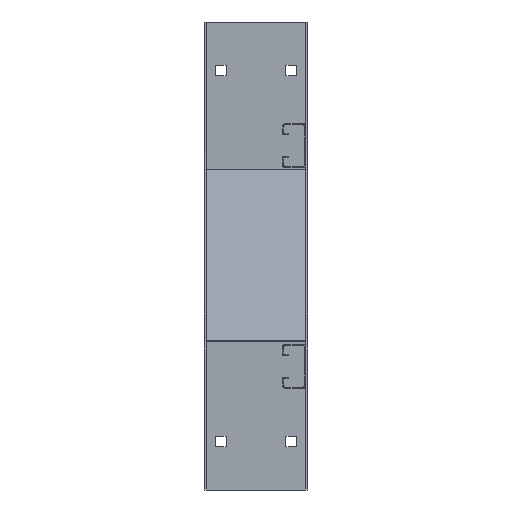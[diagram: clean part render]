
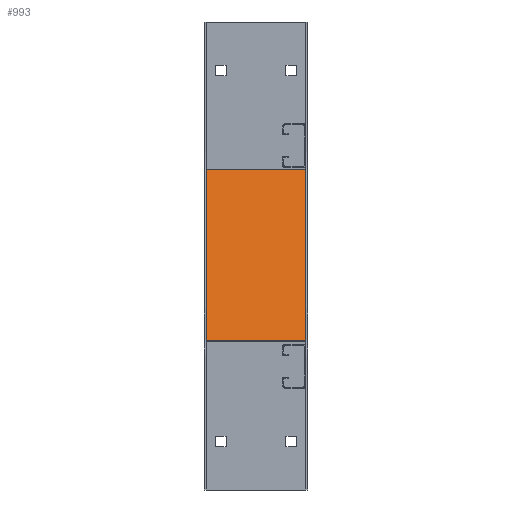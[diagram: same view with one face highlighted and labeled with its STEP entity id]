
A CAD part, left-side view. The second image highlights one B-rep face of the part: STEP entity #993.
In plain terms, the highlighted planar face has unit normal (-0.5, 0, 0.866).
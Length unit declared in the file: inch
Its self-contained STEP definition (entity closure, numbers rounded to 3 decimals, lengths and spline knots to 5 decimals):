
#101=DIRECTION('',(-0.866,0.,-0.5));
#102=VECTOR('',#101,13.85641);
#103=CARTESIAN_POINT('',(-0.075,4.11,-5.9567));
#104=LINE('',#103,#102);
#169=DIRECTION('',(-0.866,0.,-0.5));
#170=VECTOR('',#169,13.85641);
#171=CARTESIAN_POINT('',(-0.075,0.08,-5.9567));
#172=LINE('',#171,#170);
#173=DIRECTION('',(0.,1.,0.));
#174=VECTOR('',#173,4.03);
#175=CARTESIAN_POINT('',(-0.075,0.08,-5.9567));
#176=LINE('',#175,#174);
#181=DIRECTION('',(0.,1.,0.));
#182=VECTOR('',#181,4.03);
#183=CARTESIAN_POINT('',(-12.075,0.08,-12.8849));
#184=LINE('',#183,#182);
#609=CARTESIAN_POINT('',(-0.075,0.08,-5.9567));
#610=CARTESIAN_POINT('',(-0.075,4.11,-5.9567));
#611=VERTEX_POINT('',#609);
#612=VERTEX_POINT('',#610);
#629=CARTESIAN_POINT('',(-12.075,0.08,-12.8849));
#630=CARTESIAN_POINT('',(-12.075,4.11,-12.8849));
#631=VERTEX_POINT('',#629);
#632=VERTEX_POINT('',#630);
#981=CARTESIAN_POINT('',(-0.0375,0.08,-5.93505));
#982=DIRECTION('',(-0.5,0.,0.866));
#983=DIRECTION('',(0.,1.,0.));
#984=AXIS2_PLACEMENT_3D('',#981,#982,#983);
#985=PLANE('',#984);
#986=ORIENTED_EDGE('',*,*,#954,.T.);
#988=ORIENTED_EDGE('',*,*,#987,.T.);
#989=ORIENTED_EDGE('',*,*,#893,.F.);
#990=ORIENTED_EDGE('',*,*,#922,.F.);
#991=EDGE_LOOP('',(#986,#988,#989,#990));
#992=FACE_OUTER_BOUND('',#991,.F.);
#993=ADVANCED_FACE('',(#992),#985,.T.);
#893=EDGE_CURVE('',#612,#632,#104,.T.);
#922=EDGE_CURVE('',#611,#612,#176,.T.);
#954=EDGE_CURVE('',#611,#631,#172,.T.);
#987=EDGE_CURVE('',#631,#632,#184,.T.);
